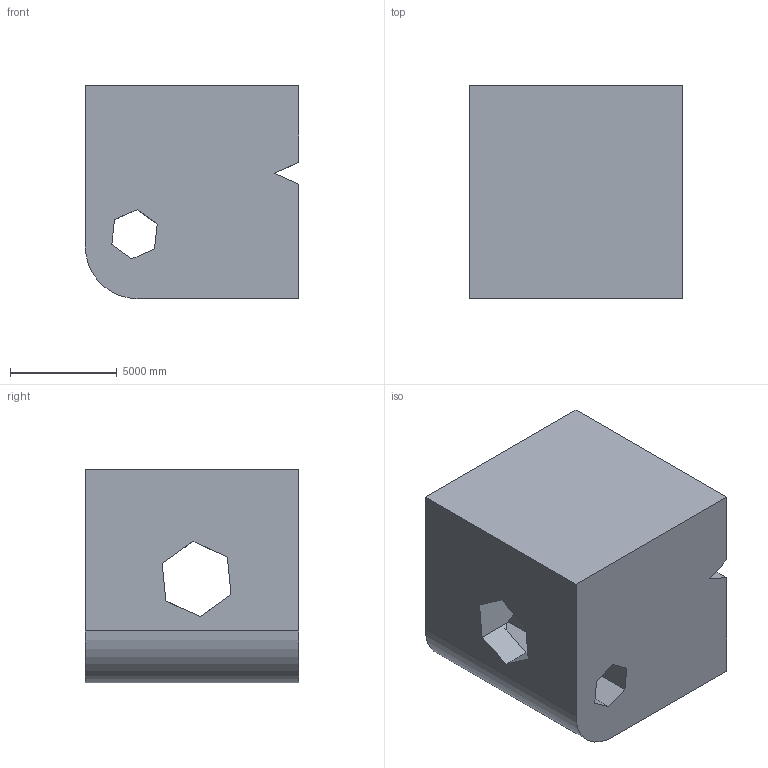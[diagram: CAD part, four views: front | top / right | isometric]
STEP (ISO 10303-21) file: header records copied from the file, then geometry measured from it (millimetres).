
FILE_DESCRIPTION (( 'STEP AP203' ), '1' );
FILE_NAME ('355.STEP', '2022-07-28T14:27:45', ( 'user' ), ( '' ), 'SwSTEP 2.0', 'SolidWorks 2021', '' );
FILE_SCHEMA (( 'CONFIG_CONTROL_DESIGN' ));
Length unit declared in the file: centimetre
Products named in the file (1): 355
Bounding box: 10000 x 10000 x 10000 mm (x, y, z)
Volume: 868558579328.5 mm3; surface area: 734603863.8 mm2
Topology: 1 solids, 1 shells, 28 faces, 87 edges, 58 vertices
Faces by surface type: plane 27, cylinder 1
Entity records: 1042 total; most frequent: ORIENTED_EDGE 174, CARTESIAN_POINT 174, DIRECTION 147, EDGE_CURVE 87, LINE 85, VECTOR 85, VERTEX_POINT 58, EDGE_LOOP 31
